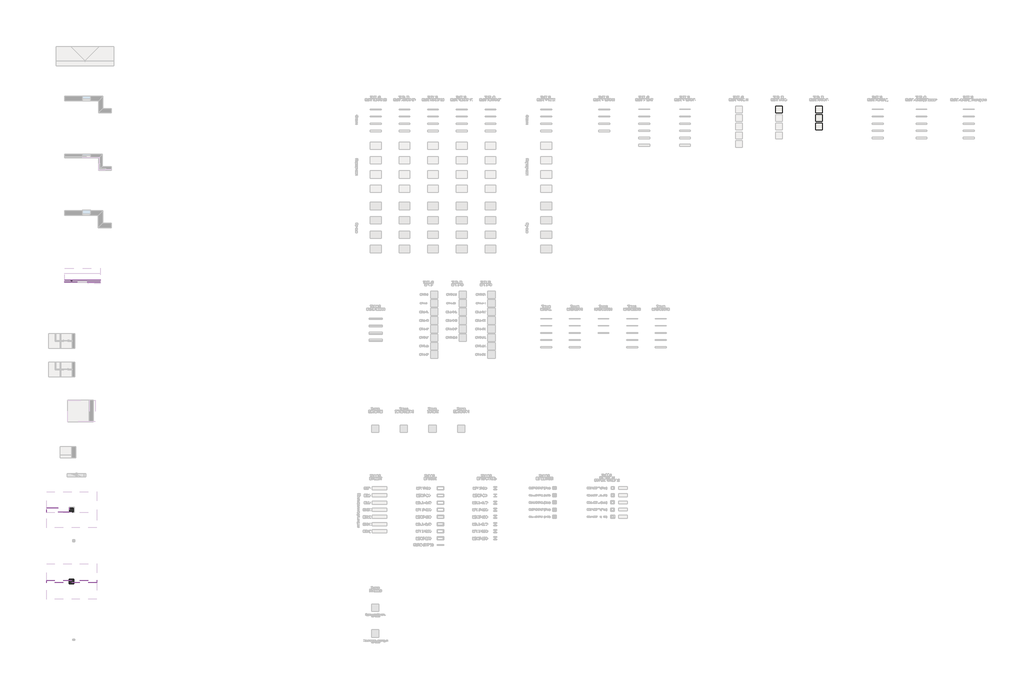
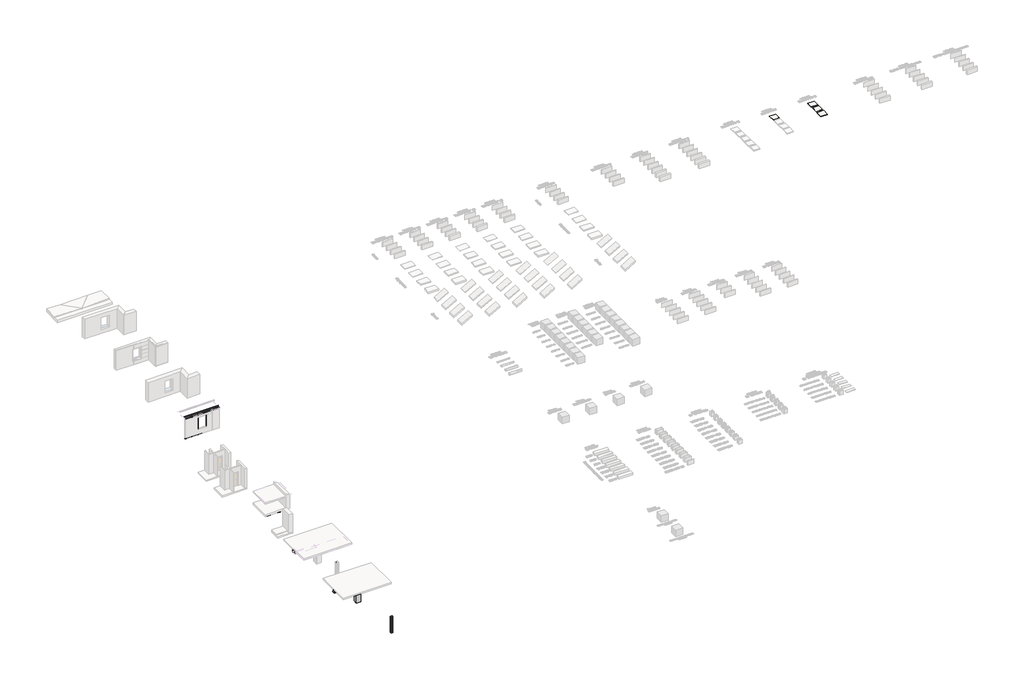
# One storey, part 6 of 35: 8 beams, 6 columns, 4 roofs, 1 slab.
"""IFC4 building model written with IfcOpenShell, lengths in millimetres."""

from ifc_helpers import new_model, si_unit, point, frame, frame_2d, origin, origin_with_axes, place, context, project, spatial, polyline, circle_curve, ellipse_curve, trimmed, segment, composite_curve, outline, extrude, faceted_brep, transform, mapped, element, save
from ifc_brep_helpers import plane_surface, cylinder_surface, revolved_surface, advanced_brep
from components import beam_3bce2fc1, c300_ace66113, c300_2f88b8a5, i_20k2_d5cf9b9c

model = new_model("IFC4")

# Units and contexts
model_context = context("Model", 3, world=origin())
ifc_project = project(units=[si_unit("LENGTHUNIT", "METRE", prefix="MILLI")], contexts=[model_context])

# Site, building, storey
site = spatial("IfcSite", under=ifc_project)
building = spatial("IfcBuilding", under=site)
storey = spatial("IfcBuildingStorey", under=building, Name="Этаж 01", Elevation=0.0)

# Beams
placement = place(None, origin())
element("IfcBeam", 1, ObjectType="C-образный профиль (ГОСТ 8240-89) Балки : [ 10", at=placement, inside=storey, context=model_context, shape_type="AdvancedBrep", body=[
    advanced_brep(
    [(-39580.0301385, -20284.5243348, 46.0), (-39626.0301385, -20284.5243348, 46.0), (-39626.0301385, -20284.5243348, 3004.0), (-39580.0301385, -20284.5243348, 3004.0), (-39626.0301385, -20286.702812, 46.0), (-39626.0301385, -20286.702812, 3004.0), (-39623.3875741, -20289.6814425, 43.3574357), (-39623.3875741, -20289.6814425, 3006.6425643), (-39590.6961219, -20293.6044168, 10.6659835), (-39590.6961219, -20293.6044168, 3039.3340165), (-39584.5301385, -20300.5545546, 4.5), (-39584.5301385, -20300.5545546, 3045.5), (-39584.5301385, -20368.4941149, 4.5), (-39584.5301385, -20368.4941149, 3045.5), (-39590.6961219, -20375.4442528, 10.6659835), (-39590.6961219, -20375.4442528, 3039.3340165), (-39623.3875741, -20379.3672271, 43.3574357), (-39623.3875741, -20379.3672271, 3006.6425643), (-39626.0301385, -20382.3458576, 46.0), (-39626.0301385, -20382.3458576, 3004.0), (-39626.0301385, -20384.5243348, 46.0), (-39626.0301385, -20384.5243348, 3004.0), (-39580.0301385, -20384.5243348, 46.0), (-39580.0301385, -20384.5243348, 3004.0), (-39580.0301385, -20382.3458576, 46.0), (-39580.0301385, -20379.3672271, 43.3574357), (-39580.0301385, -20375.4442528, 10.6659835), (-39580.0301385, -20368.4941149, 4.5), (-39580.0301385, -20300.5545546, 4.5), (-39580.0301385, -20293.6044168, 10.6659835), (-39580.0301385, -20289.6814425, 43.3574357), (-39580.0301385, -20286.702812, 46.0), (-39580.0301385, -20286.702812, 3004.0), (-39580.0301385, -20289.6814425, 3006.6425643), (-39580.0301385, -20293.6044168, 3039.3340165), (-39580.0301385, -20300.5545546, 3045.5), (-39580.0301385, -20368.4941149, 3045.5), (-39580.0301385, -20375.4442528, 3039.3340165), (-39580.0301385, -20379.3672271, 3006.6425643), (-39580.0301385, -20382.3458576, 3004.0)],
    [
        (0, 1),
        (1, 2),
        (2, 3),
        (3, 0),
        (1, 4),
        (4, 5),
        (5, 2),
        (4, 6, ellipse_curve(frame((-39623.0301385, -20286.702812, 43.0), z_axis=(0.7071067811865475, 0.0, 0.7071067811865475), x_axis=(0.7071067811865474, 0.0, -0.7071067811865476)), 4.2426407, 3.0)),
        (6, 7),
        (7, 5, ellipse_curve(frame((-39623.0301385, -20286.702812, 3007.0), z_axis=(0.7071067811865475, 0.0, -0.7071067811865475), x_axis=(-0.7071067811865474, 0.0, -0.7071067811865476)), 4.2426407, 3.0)),
        (6, 8),
        (8, 9),
        (9, 7),
        (8, 10, ellipse_curve(frame((-39591.5301385, -20300.5545546, 11.5), z_axis=(-0.7071067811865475, 0.0, -0.7071067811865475), x_axis=(0.7071067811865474, 0.0, -0.7071067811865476)), 9.8994949, 7.0)),
        (10, 11),
        (11, 9, ellipse_curve(frame((-39591.5301385, -20300.5545546, 3038.5), z_axis=(-0.7071067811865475, 0.0, 0.7071067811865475), x_axis=(-0.7071067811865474, 0.0, -0.7071067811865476)), 9.8994949, 7.0)),
        (10, 12),
        (12, 13),
        (13, 11),
        (12, 14, ellipse_curve(frame((-39591.5301385, -20368.4941149, 11.5), z_axis=(-0.7071067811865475, 0.0, -0.7071067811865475), x_axis=(0.7071067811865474, 0.0, -0.7071067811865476)), 9.8994949, 7.0)),
        (14, 15),
        (15, 13, ellipse_curve(frame((-39591.5301385, -20368.4941149, 3038.5), z_axis=(-0.7071067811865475, 0.0, 0.7071067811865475), x_axis=(-0.7071067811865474, 0.0, -0.7071067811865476)), 9.8994949, 7.0)),
        (14, 16),
        (16, 17),
        (17, 15),
        (16, 18, ellipse_curve(frame((-39623.0301385, -20382.3458576, 43.0), z_axis=(0.7071067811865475, 0.0, 0.7071067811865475), x_axis=(0.7071067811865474, 0.0, -0.7071067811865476)), 4.2426407, 3.0)),
        (18, 19),
        (19, 17, ellipse_curve(frame((-39623.0301385, -20382.3458576, 3007.0), z_axis=(0.7071067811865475, 0.0, -0.7071067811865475), x_axis=(-0.7071067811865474, 0.0, -0.7071067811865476)), 4.2426407, 3.0)),
        (18, 20),
        (20, 21),
        (21, 19),
        (20, 22),
        (22, 23),
        (23, 21),
        (22, 24),
        (24, 25, circle_curve(frame((-39580.0301385, -20382.3458576, 43.0), z_axis=(-1.0, 0.0, 0.0), x_axis=(0.0, 0.0, 1.0)), 3.0)),
        (25, 26),
        (26, 27, circle_curve(frame((-39580.0301385, -20368.4941149, 11.5), z_axis=(1.0, 0.0, 0.0), x_axis=(0.0, 0.0, 1.0)), 7.0)),
        (27, 28),
        (28, 29, circle_curve(frame((-39580.0301385, -20300.5545546, 11.5), z_axis=(1.0, 0.0, 0.0), x_axis=(0.0, 0.0, 1.0)), 7.0)),
        (29, 30),
        (30, 31, circle_curve(frame((-39580.0301385, -20286.702812, 43.0), z_axis=(-1.0, 0.0, 0.0), x_axis=(0.0, 0.0, 1.0)), 3.0)),
        (31, 0),
        (3, 32),
        (32, 33, circle_curve(frame((-39580.0301385, -20286.702812, 3007.0), z_axis=(-1.0, 0.0, 0.0), x_axis=(0.0, 0.0, -1.0)), 3.0)),
        (33, 34),
        (34, 35, circle_curve(frame((-39580.0301385, -20300.5545546, 3038.5), z_axis=(1.0, 0.0, 0.0), x_axis=(0.0, 0.0, -1.0)), 7.0)),
        (35, 36),
        (36, 37, circle_curve(frame((-39580.0301385, -20368.4941149, 3038.5), z_axis=(1.0, 0.0, 0.0), x_axis=(0.0, 0.0, -1.0)), 7.0)),
        (37, 38),
        (38, 39, circle_curve(frame((-39580.0301385, -20382.3458576, 3007.0), z_axis=(-1.0, 0.0, 0.0), x_axis=(0.0, 0.0, -1.0)), 3.0)),
        (39, 23),
        (18, 24),
        (16, 25),
        (14, 26),
        (12, 27),
        (10, 28),
        (8, 29),
        (6, 30),
        (4, 31),
        (5, 32),
        (7, 33),
        (9, 34),
        (11, 35),
        (13, 36),
        (15, 37),
        (17, 38),
        (19, 39),
    ],
    [
        plane_surface(frame((-39603.0301385, -20284.5243348, 3050.0), z_axis=(0.0, 1.0, 0.0), x_axis=(-1.0, 0.0, 0.0))),
        plane_surface(frame((-39626.0301385, -20285.6135734, 3050.0), z_axis=(-1.0, 0.0, 0.0), x_axis=(0.0, -1.0, 0.0))),
        cylinder_surface(frame((-39623.0301385, -20286.702812, 3050.0), z_axis=(0.0, 0.0, -1.0), x_axis=(0.0, -1.0, 0.0)), 3.0),
        plane_surface(frame((-39607.041848, -20291.6429296, 3050.0), z_axis=(-0.11914522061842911, -0.9928768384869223, 0.0), x_axis=(0.9928768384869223, -0.11914522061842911, 0.0))),
        revolved_surface(polyline([(-39584.58000063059, -20301.38857114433, 4.5), (-39584.58000063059, -20301.38857114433, 3045.5)]), (-39591.5301385, -20300.5545546, 3050.0), (0.0, 0.0, -1.0)),
        plane_surface(frame((-39584.5301385, -20334.5243348, 3050.0), z_axis=(-1.0, 0.0, 0.0), x_axis=(0.0, -1.0, 0.0))),
        revolved_surface(polyline([(-39591.5301385, -20375.4941149, 4.5), (-39591.5301385, -20375.4941149, 3045.5)]), (-39591.5301385, -20368.4941149, 3050.0), (0.0, 0.0, -1.0)),
        plane_surface(frame((-39607.041848, -20377.4057399, 3050.0), z_axis=(-0.11914522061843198, 0.9928768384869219, 0.0), x_axis=(-0.9928768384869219, -0.11914522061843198, 0.0))),
        cylinder_surface(frame((-39623.0301385, -20382.3458576, 3050.0), z_axis=(0.0, 0.0, -1.0), x_axis=(-0.9928768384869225, -0.11914522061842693, 0.0)), 3.0),
        plane_surface(frame((-39626.0301385, -20383.4350962, 3050.0), z_axis=(-1.0, 0.0, 0.0), x_axis=(0.0, -1.0, 0.0))),
        plane_surface(frame((-39603.0301385, -20384.5243348, 3050.0), z_axis=(0.0, -1.0, 0.0), x_axis=(1.0, 0.0, 0.0))),
        plane_surface(frame((-39580.0301385, -20334.5243348, 3050.0), z_axis=(1.0, 0.0, 0.0), x_axis=(0.0, 1.0, 0.0))),
        plane_surface(frame((-41475.0301385, -20384.5243348, 46.0), z_axis=(0.0, 0.0, -1.0), x_axis=(1.0, 0.0, 0.0))),
        revolved_surface(polyline([(-39626.03013850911, -20382.3458576, 46.0), (-39580.0301385, -20382.3458576, 46.0)]), (-38975.0301385, -20382.3458576, 43.0), (-1.0, 0.0, 0.0)),
        plane_surface(frame((-41475.0301385, -20379.3672271, 43.3574357), z_axis=(0.0, -0.9928768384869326, -0.11914522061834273), x_axis=(1.0, 0.0, 0.0))),
        cylinder_surface(frame((-38975.0301385, -20368.4941149, 11.5), z_axis=(1.0, 0.0, 0.0), x_axis=(0.0, 0.0, 1.0)), 7.0),
        plane_surface(frame((-41475.0301385, -20368.4941149, 4.5), z_axis=(0.0, 0.0, -1.0), x_axis=(1.0, 0.0, 0.0))),
        cylinder_surface(frame((-38975.0301385, -20300.5545546, 11.5), z_axis=(1.0, 0.0, 0.0), x_axis=(0.0, 0.0, 1.0)), 7.0),
        plane_surface(frame((-41475.0301385, -20293.6044168, 10.6659835), z_axis=(0.0, 0.9928768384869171, -0.1191452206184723), x_axis=(1.0, 0.0, 0.0))),
        revolved_surface(polyline([(-39626.03013850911, -20286.702812, 46.0), (-39580.0301385, -20286.702812, 46.0)]), (-38975.0301385, -20286.702812, 43.0), (-1.0, 0.0, 0.0)),
        plane_surface(frame((-41475.0301385, -20286.702812, 46.0), z_axis=(0.0, 0.0, -1.0), x_axis=(1.0, 0.0, 0.0))),
        plane_surface(frame((-41475.0301385, -20284.5243348, 3004.0), z_axis=(0.0, 0.0, 1.0), x_axis=(1.0, 0.0, 0.0))),
        revolved_surface(polyline([(-39626.03013850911, -20286.702812, 3004.0), (-39580.0301385, -20286.702812, 3004.0)]), (-38975.0301385, -20286.702812, 3007.0), (-1.0, 0.0, 0.0)),
        plane_surface(frame((-41475.0301385, -20289.6814425, 3006.6425643), z_axis=(0.0, 0.9928768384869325, 0.11914522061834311), x_axis=(1.0, 0.0, 0.0))),
        cylinder_surface(frame((-38975.0301385, -20300.5545546, 3038.5), z_axis=(1.0, 0.0, 0.0), x_axis=(0.0, 0.0, -1.0)), 7.0),
        plane_surface(frame((-41475.0301385, -20300.5545546, 3045.5), z_axis=(0.0, 0.0, 1.0), x_axis=(1.0, 0.0, 0.0))),
        cylinder_surface(frame((-38975.0301385, -20368.4941149, 3038.5), z_axis=(1.0, 0.0, 0.0), x_axis=(0.0, 0.0, -1.0)), 7.0),
        plane_surface(frame((-41475.0301385, -20375.4442528, 3039.3340165), z_axis=(0.0, -0.992876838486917, 0.1191452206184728), x_axis=(1.0, 0.0, 0.0))),
        revolved_surface(polyline([(-39626.03013850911, -20382.3458576, 3004.0), (-39580.0301385, -20382.3458576, 3004.0)]), (-38975.0301385, -20382.3458576, 3007.0), (-1.0, 0.0, 0.0)),
        plane_surface(frame((-41475.0301385, -20382.3458576, 3004.0), z_axis=(0.0, 0.0, 1.0), x_axis=(1.0, 0.0, 0.0))),
    ],
    [
        (0, [[1, 2, 3, 4]]),
        (1, [[5, 6, 7, -2]]),
        (2, [[8, 9, 10, -6]]),
        (3, [[11, 12, 13, -9]]),
        (4, [[14, 15, 16, -12]]),
        (5, [[17, 18, 19, -15]]),
        (6, [[20, 21, 22, -18]]),
        (7, [[23, 24, 25, -21]]),
        (8, [[26, 27, 28, -24]]),
        (9, [[29, 30, 31, -27]]),
        (10, [[32, 33, 34, -30]]),
        (11, [[35, 36, 37, 38, 39, 40, 41, 42, 43, -4, 44, 45, 46, 47, 48, 49, 50, 51, 52, -33]]),
        (12, [[53, -35, -32, -29]]),
        (13, [[-53, -26, 54, -36]]),
        (14, [[-54, -23, 55, -37]]),
        (15, [[-55, -20, 56, -38]]),
        (16, [[-56, -17, 57, -39]]),
        (17, [[-57, -14, 58, -40]]),
        (18, [[-58, -11, 59, -41]]),
        (19, [[-59, -8, 60, -42]]),
        (20, [[-60, -5, -1, -43]]),
        (21, [[61, -44, -3, -7]]),
        (22, [[-61, -10, 62, -45]]),
        (23, [[-62, -13, 63, -46]]),
        (24, [[-63, -16, 64, -47]]),
        (25, [[-64, -19, 65, -48]]),
        (26, [[-65, -22, 66, -49]]),
        (27, [[-66, -25, 67, -50]]),
        (28, [[-67, -28, 68, -51]]),
        (29, [[-68, -31, -34, -52]]),
    ],
),
])
element("IfcBeam", 2, ObjectType="C-образный профиль (ГОСТ 8240-89) Балки : [ 10", at=placement, inside=storey, context=model_context, shape_type="AdvancedBrep", body=[
    advanced_brep(
    [(-38370.0301385, -20384.5243348, 46.0), (-38324.0301385, -20384.5243348, 46.0), (-38324.0301385, -20384.5243348, 3004.0), (-38370.0301385, -20384.5243348, 3004.0), (-38324.0301385, -20382.3458576, 46.0), (-38324.0301385, -20382.3458576, 3004.0), (-38326.6727028, -20379.3672271, 43.3574357), (-38326.6727028, -20379.3672271, 3006.6425643), (-38359.364155, -20375.4442528, 10.6659835), (-38359.364155, -20375.4442528, 3039.3340165), (-38365.5301385, -20368.4941149, 4.5), (-38365.5301385, -20368.4941149, 3045.5), (-38365.5301385, -20300.5545546, 4.5), (-38365.5301385, -20300.5545546, 3045.5), (-38359.364155, -20293.6044168, 10.6659835), (-38359.364155, -20293.6044168, 3039.3340165), (-38326.6727028, -20289.6814425, 43.3574357), (-38326.6727028, -20289.6814425, 3006.6425643), (-38324.0301385, -20286.702812, 46.0), (-38324.0301385, -20286.702812, 3004.0), (-38324.0301385, -20284.5243348, 46.0), (-38324.0301385, -20284.5243348, 3004.0), (-38370.0301385, -20284.5243348, 46.0), (-38370.0301385, -20284.5243348, 3004.0), (-38370.0301385, -20382.3458576, 46.0), (-38370.0301385, -20382.3458576, 3004.0), (-38370.0301385, -20379.3672271, 3006.6425643), (-38370.0301385, -20375.4442528, 3039.3340165), (-38370.0301385, -20368.4941149, 3045.5), (-38370.0301385, -20300.5545546, 3045.5), (-38370.0301385, -20293.6044168, 3039.3340165), (-38370.0301385, -20289.6814425, 3006.6425643), (-38370.0301385, -20286.702812, 3004.0), (-38370.0301385, -20286.702812, 46.0), (-38370.0301385, -20289.6814425, 43.3574357), (-38370.0301385, -20293.6044168, 10.6659835), (-38370.0301385, -20300.5545546, 4.5), (-38370.0301385, -20368.4941149, 4.5), (-38370.0301385, -20375.4442528, 10.6659835), (-38370.0301385, -20379.3672271, 43.3574357)],
    [
        (0, 1),
        (1, 2),
        (2, 3),
        (3, 0),
        (1, 4),
        (4, 5),
        (5, 2),
        (4, 6, ellipse_curve(frame((-38327.0301385, -20382.3458576, 43.0), z_axis=(-0.7071067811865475, 0.0, 0.7071067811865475), x_axis=(-0.7071067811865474, 0.0, -0.7071067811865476)), 4.2426407, 3.0)),
        (6, 7),
        (7, 5, ellipse_curve(frame((-38327.0301385, -20382.3458576, 3007.0), z_axis=(-0.7071067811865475, 0.0, -0.7071067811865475), x_axis=(0.7071067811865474, 0.0, -0.7071067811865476)), 4.2426407, 3.0)),
        (6, 8),
        (8, 9),
        (9, 7),
        (8, 10, ellipse_curve(frame((-38358.5301385, -20368.4941149, 11.5), z_axis=(0.7071067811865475, 0.0, -0.7071067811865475), x_axis=(-0.7071067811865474, 0.0, -0.7071067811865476)), 9.8994949, 7.0)),
        (10, 11),
        (11, 9, ellipse_curve(frame((-38358.5301385, -20368.4941149, 3038.5), z_axis=(0.7071067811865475, 0.0, 0.7071067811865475), x_axis=(0.7071067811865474, 0.0, -0.7071067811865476)), 9.8994949, 7.0)),
        (10, 12),
        (12, 13),
        (13, 11),
        (12, 14, ellipse_curve(frame((-38358.5301385, -20300.5545546, 11.5), z_axis=(0.7071067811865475, 0.0, -0.7071067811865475), x_axis=(-0.7071067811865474, 0.0, -0.7071067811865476)), 9.8994949, 7.0)),
        (14, 15),
        (15, 13, ellipse_curve(frame((-38358.5301385, -20300.5545546, 3038.5), z_axis=(0.7071067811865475, 0.0, 0.7071067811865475), x_axis=(0.7071067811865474, 0.0, -0.7071067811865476)), 9.8994949, 7.0)),
        (14, 16),
        (16, 17),
        (17, 15),
        (16, 18, ellipse_curve(frame((-38327.0301385, -20286.702812, 43.0), z_axis=(-0.7071067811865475, 0.0, 0.7071067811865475), x_axis=(-0.7071067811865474, 0.0, -0.7071067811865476)), 4.2426407, 3.0)),
        (18, 19),
        (19, 17, ellipse_curve(frame((-38327.0301385, -20286.702812, 3007.0), z_axis=(-0.7071067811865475, 0.0, -0.7071067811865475), x_axis=(0.7071067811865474, 0.0, -0.7071067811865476)), 4.2426407, 3.0)),
        (18, 20),
        (20, 21),
        (21, 19),
        (20, 22),
        (22, 23),
        (23, 21),
        (24, 0),
        (3, 25),
        (25, 26, circle_curve(frame((-38370.0301385, -20382.3458576, 3007.0), z_axis=(1.0, 0.0, 0.0), x_axis=(0.0, 0.0, -1.0)), 3.0)),
        (26, 27),
        (27, 28, circle_curve(frame((-38370.0301385, -20368.4941149, 3038.5), z_axis=(-1.0, 0.0, 0.0), x_axis=(0.0, 0.0, -1.0)), 7.0)),
        (28, 29),
        (29, 30, circle_curve(frame((-38370.0301385, -20300.5545546, 3038.5), z_axis=(-1.0, 0.0, 0.0), x_axis=(0.0, 0.0, -1.0)), 7.0)),
        (30, 31),
        (31, 32, circle_curve(frame((-38370.0301385, -20286.702812, 3007.0), z_axis=(1.0, 0.0, 0.0), x_axis=(0.0, 0.0, -1.0)), 3.0)),
        (32, 23),
        (22, 33),
        (33, 34, circle_curve(frame((-38370.0301385, -20286.702812, 43.0), z_axis=(1.0, 0.0, 0.0), x_axis=(0.0, 0.0, 1.0)), 3.0)),
        (34, 35),
        (35, 36, circle_curve(frame((-38370.0301385, -20300.5545546, 11.5), z_axis=(-1.0, 0.0, 0.0), x_axis=(0.0, 0.0, 1.0)), 7.0)),
        (36, 37),
        (37, 38, circle_curve(frame((-38370.0301385, -20368.4941149, 11.5), z_axis=(-1.0, 0.0, 0.0), x_axis=(0.0, 0.0, 1.0)), 7.0)),
        (38, 39),
        (39, 24, circle_curve(frame((-38370.0301385, -20382.3458576, 43.0), z_axis=(1.0, 0.0, 0.0), x_axis=(0.0, 0.0, 1.0)), 3.0)),
        (24, 4),
        (39, 6),
        (38, 8),
        (37, 10),
        (36, 12),
        (35, 14),
        (34, 16),
        (33, 18),
        (32, 19),
        (31, 17),
        (30, 15),
        (29, 13),
        (28, 11),
        (27, 9),
        (26, 7),
        (25, 5),
    ],
    [
        plane_surface(frame((-38347.0301385, -20384.5243348, 3050.0), z_axis=(0.0, -1.0, 0.0), x_axis=(1.0, 0.0, 0.0))),
        plane_surface(frame((-38324.0301385, -20383.4350962, 3050.0), z_axis=(1.0, 0.0, 0.0), x_axis=(0.0, 1.0, 0.0))),
        cylinder_surface(frame((-38327.0301385, -20382.3458576, 3050.0), z_axis=(0.0, 0.0, -1.0), x_axis=(0.0, 1.0, 0.0)), 3.0),
        plane_surface(frame((-38343.0184289, -20377.4057399, 3050.0), z_axis=(0.11914522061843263, 0.9928768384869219, 0.0), x_axis=(-0.9928768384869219, 0.11914522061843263, 0.0))),
        revolved_surface(polyline([(-38365.48027636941, -20367.66009835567, 4.5), (-38365.48027636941, -20367.66009835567, 3045.5)]), (-38358.5301385, -20368.4941149, 3050.0), (0.0, 0.0, -1.0)),
        plane_surface(frame((-38365.5301385, -20334.5243348, 3050.0), z_axis=(1.0, 0.0, 0.0), x_axis=(0.0, 1.0, 0.0))),
        revolved_surface(polyline([(-38358.5301385, -20293.5545546, 4.5), (-38358.5301385, -20293.5545546, 3045.5)]), (-38358.5301385, -20300.5545546, 3050.0), (0.0, 0.0, -1.0)),
        plane_surface(frame((-38343.0184289, -20291.6429296, 3050.0), z_axis=(0.11914522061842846, -0.9928768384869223, 0.0), x_axis=(0.9928768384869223, 0.11914522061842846, 0.0))),
        cylinder_surface(frame((-38327.0301385, -20286.702812, 3050.0), z_axis=(0.0, 0.0, -1.0), x_axis=(0.992876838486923, 0.1191452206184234, 0.0)), 3.0),
        plane_surface(frame((-38324.0301385, -20285.6135734, 3050.0), z_axis=(1.0, 0.0, 0.0), x_axis=(0.0, 1.0, 0.0))),
        plane_surface(frame((-38347.0301385, -20284.5243348, 3050.0), z_axis=(0.0, 1.0, 0.0), x_axis=(-1.0, 0.0, 0.0))),
        plane_surface(frame((-38370.0301385, -20334.5243348, 3050.0), z_axis=(-1.0, 0.0, 0.0), x_axis=(0.0, -1.0, 0.0))),
        plane_surface(frame((-41475.0301385, -20384.5243348, 46.0), z_axis=(0.0, 0.0, -1.0), x_axis=(1.0, 0.0, 0.0))),
        revolved_surface(polyline([(-38370.0301385, -20382.3458576, 46.0), (-38324.03013849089, -20382.3458576, 46.0)]), (-38975.0301385, -20382.3458576, 43.0), (-1.0, 0.0, 0.0)),
        plane_surface(frame((-41475.0301385, -20379.3672271, 43.3574357), z_axis=(0.0, -0.9928768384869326, -0.11914522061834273), x_axis=(1.0, 0.0, 0.0))),
        cylinder_surface(frame((-38975.0301385, -20368.4941149, 11.5), z_axis=(1.0, 0.0, 0.0), x_axis=(0.0, 0.0, 1.0)), 7.0),
        plane_surface(frame((-41475.0301385, -20368.4941149, 4.5), z_axis=(0.0, 0.0, -1.0), x_axis=(1.0, 0.0, 0.0))),
        cylinder_surface(frame((-38975.0301385, -20300.5545546, 11.5), z_axis=(1.0, 0.0, 0.0), x_axis=(0.0, 0.0, 1.0)), 7.0),
        plane_surface(frame((-41475.0301385, -20293.6044168, 10.6659835), z_axis=(0.0, 0.9928768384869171, -0.1191452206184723), x_axis=(1.0, 0.0, 0.0))),
        revolved_surface(polyline([(-38370.0301385, -20286.702812, 46.0), (-38324.03013849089, -20286.702812, 46.0)]), (-38975.0301385, -20286.702812, 43.0), (-1.0, 0.0, 0.0)),
        plane_surface(frame((-41475.0301385, -20286.702812, 46.0), z_axis=(0.0, 0.0, -1.0), x_axis=(1.0, 0.0, 0.0))),
        plane_surface(frame((-41475.0301385, -20284.5243348, 3004.0), z_axis=(0.0, 0.0, 1.0), x_axis=(1.0, 0.0, 0.0))),
        revolved_surface(polyline([(-38370.0301385, -20286.702812, 3004.0), (-38324.03013849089, -20286.702812, 3004.0)]), (-38975.0301385, -20286.702812, 3007.0), (-1.0, 0.0, 0.0)),
        plane_surface(frame((-41475.0301385, -20289.6814425, 3006.6425643), z_axis=(0.0, 0.9928768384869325, 0.11914522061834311), x_axis=(1.0, 0.0, 0.0))),
        cylinder_surface(frame((-38975.0301385, -20300.5545546, 3038.5), z_axis=(1.0, 0.0, 0.0), x_axis=(0.0, 0.0, -1.0)), 7.0),
        plane_surface(frame((-41475.0301385, -20300.5545546, 3045.5), z_axis=(0.0, 0.0, 1.0), x_axis=(1.0, 0.0, 0.0))),
        cylinder_surface(frame((-38975.0301385, -20368.4941149, 3038.5), z_axis=(1.0, 0.0, 0.0), x_axis=(0.0, 0.0, -1.0)), 7.0),
        plane_surface(frame((-41475.0301385, -20375.4442528, 3039.3340165), z_axis=(0.0, -0.992876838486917, 0.1191452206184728), x_axis=(1.0, 0.0, 0.0))),
        revolved_surface(polyline([(-38370.0301385, -20382.3458576, 3004.0), (-38324.03013849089, -20382.3458576, 3004.0)]), (-38975.0301385, -20382.3458576, 3007.0), (-1.0, 0.0, 0.0)),
        plane_surface(frame((-41475.0301385, -20382.3458576, 3004.0), z_axis=(0.0, 0.0, 1.0), x_axis=(1.0, 0.0, 0.0))),
    ],
    [
        (0, [[1, 2, 3, 4]]),
        (1, [[5, 6, 7, -2]]),
        (2, [[8, 9, 10, -6]]),
        (3, [[11, 12, 13, -9]]),
        (4, [[14, 15, 16, -12]]),
        (5, [[17, 18, 19, -15]]),
        (6, [[20, 21, 22, -18]]),
        (7, [[23, 24, 25, -21]]),
        (8, [[26, 27, 28, -24]]),
        (9, [[29, 30, 31, -27]]),
        (10, [[32, 33, 34, -30]]),
        (11, [[35, -4, 36, 37, 38, 39, 40, 41, 42, 43, 44, -33, 45, 46, 47, 48, 49, 50, 51, 52]]),
        (12, [[53, -5, -1, -35]]),
        (13, [[-53, -52, 54, -8]]),
        (14, [[-54, -51, 55, -11]]),
        (15, [[-55, -50, 56, -14]]),
        (16, [[-56, -49, 57, -17]]),
        (17, [[-57, -48, 58, -20]]),
        (18, [[-58, -47, 59, -23]]),
        (19, [[-59, -46, 60, -26]]),
        (20, [[-60, -45, -32, -29]]),
        (21, [[61, -31, -34, -44]]),
        (22, [[-61, -43, 62, -28]]),
        (23, [[-62, -42, 63, -25]]),
        (24, [[-63, -41, 64, -22]]),
        (25, [[-64, -40, 65, -19]]),
        (26, [[-65, -39, 66, -16]]),
        (27, [[-66, -38, 67, -13]]),
        (28, [[-67, -37, 68, -10]]),
        (29, [[-68, -36, -3, -7]]),
    ],
),
])
element("IfcBeam", 3, ObjectType="C-образный профиль (ГОСТ 8240-89) Балки : [ 10", at=placement, inside=storey, context=model_context, shape_type="AdvancedBrep", body=[
    advanced_brep(
    [(-40500.5104743, -20384.5243348, 46.0), (-40454.5104743, -20384.5243348, 46.0), (-40454.5104743, -20384.5243348, 3004.0), (-40500.5104743, -20384.5243348, 3004.0), (-40454.5104743, -20382.3458576, 46.0), (-40454.5104743, -20382.3458576, 3004.0), (-40457.1530387, -20379.3672271, 43.3574357), (-40457.1530387, -20379.3672271, 3006.6425643), (-40489.8444909, -20375.4442528, 10.6659835), (-40489.8444909, -20375.4442528, 3039.3340165), (-40496.0104743, -20368.4941149, 4.5), (-40496.0104743, -20368.4941149, 3045.5), (-40496.0104743, -20300.5545546, 4.5), (-40496.0104743, -20300.5545546, 3045.5), (-40489.8444909, -20293.6044168, 10.6659835), (-40489.8444909, -20293.6044168, 3039.3340165), (-40457.1530387, -20289.6814425, 43.3574357), (-40457.1530387, -20289.6814425, 3006.6425643), (-40454.5104743, -20286.702812, 46.0), (-40454.5104743, -20286.702812, 3004.0), (-40454.5104743, -20284.5243348, 46.0), (-40454.5104743, -20284.5243348, 3004.0), (-40500.5104743, -20284.5243348, 46.0), (-40500.5104743, -20284.5243348, 3004.0), (-40500.5104743, -20382.3458576, 46.0), (-40500.5104743, -20382.3458576, 3004.0), (-40500.5104743, -20379.3672271, 3006.6425643), (-40500.5104743, -20375.4442528, 3039.3340165), (-40500.5104743, -20368.4941149, 3045.5), (-40500.5104743, -20300.5545546, 3045.5), (-40500.5104743, -20293.6044168, 3039.3340165), (-40500.5104743, -20289.6814425, 3006.6425643), (-40500.5104743, -20286.702812, 3004.0), (-40500.5104743, -20286.702812, 46.0), (-40500.5104743, -20289.6814425, 43.3574357), (-40500.5104743, -20293.6044168, 10.6659835), (-40500.5104743, -20300.5545546, 4.5), (-40500.5104743, -20368.4941149, 4.5), (-40500.5104743, -20375.4442528, 10.6659835), (-40500.5104743, -20379.3672271, 43.3574357)],
    [
        (0, 1),
        (1, 2),
        (2, 3),
        (3, 0),
        (1, 4),
        (4, 5),
        (5, 2),
        (4, 6, ellipse_curve(frame((-40457.5104743, -20382.3458576, 43.0), z_axis=(-0.7071067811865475, 0.0, 0.7071067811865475), x_axis=(-0.7071067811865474, 0.0, -0.7071067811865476)), 4.2426407, 3.0)),
        (6, 7),
        (7, 5, ellipse_curve(frame((-40457.5104743, -20382.3458576, 3007.0), z_axis=(-0.7071067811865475, 0.0, -0.7071067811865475), x_axis=(0.7071067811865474, 0.0, -0.7071067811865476)), 4.2426407, 3.0)),
        (6, 8),
        (8, 9),
        (9, 7),
        (8, 10, ellipse_curve(frame((-40489.0104743, -20368.4941149, 11.5), z_axis=(0.7071067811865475, 0.0, -0.7071067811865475), x_axis=(-0.7071067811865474, 0.0, -0.7071067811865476)), 9.8994949, 7.0)),
        (10, 11),
        (11, 9, ellipse_curve(frame((-40489.0104743, -20368.4941149, 3038.5), z_axis=(0.7071067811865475, 0.0, 0.7071067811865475), x_axis=(0.7071067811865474, 0.0, -0.7071067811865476)), 9.8994949, 7.0)),
        (10, 12),
        (12, 13),
        (13, 11),
        (12, 14, ellipse_curve(frame((-40489.0104743, -20300.5545546, 11.5), z_axis=(0.7071067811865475, 0.0, -0.7071067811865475), x_axis=(-0.7071067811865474, 0.0, -0.7071067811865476)), 9.8994949, 7.0)),
        (14, 15),
        (15, 13, ellipse_curve(frame((-40489.0104743, -20300.5545546, 3038.5), z_axis=(0.7071067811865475, 0.0, 0.7071067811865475), x_axis=(0.7071067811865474, 0.0, -0.7071067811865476)), 9.8994949, 7.0)),
        (14, 16),
        (16, 17),
        (17, 15),
        (16, 18, ellipse_curve(frame((-40457.5104743, -20286.702812, 43.0), z_axis=(-0.7071067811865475, 0.0, 0.7071067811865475), x_axis=(-0.7071067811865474, 0.0, -0.7071067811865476)), 4.2426407, 3.0)),
        (18, 19),
        (19, 17, ellipse_curve(frame((-40457.5104743, -20286.702812, 3007.0), z_axis=(-0.7071067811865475, 0.0, -0.7071067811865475), x_axis=(0.7071067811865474, 0.0, -0.7071067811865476)), 4.2426407, 3.0)),
        (18, 20),
        (20, 21),
        (21, 19),
        (20, 22),
        (22, 23),
        (23, 21),
        (24, 0),
        (3, 25),
        (25, 26, circle_curve(frame((-40500.5104743, -20382.3458576, 3007.0), z_axis=(1.0, 0.0, 0.0), x_axis=(0.0, 0.0, -1.0)), 3.0)),
        (26, 27),
        (27, 28, circle_curve(frame((-40500.5104743, -20368.4941149, 3038.5), z_axis=(-1.0, 0.0, 0.0), x_axis=(0.0, 0.0, -1.0)), 7.0)),
        (28, 29),
        (29, 30, circle_curve(frame((-40500.5104743, -20300.5545546, 3038.5), z_axis=(-1.0, 0.0, 0.0), x_axis=(0.0, 0.0, -1.0)), 7.0)),
        (30, 31),
        (31, 32, circle_curve(frame((-40500.5104743, -20286.702812, 3007.0), z_axis=(1.0, 0.0, 0.0), x_axis=(0.0, 0.0, -1.0)), 3.0)),
        (32, 23),
        (22, 33),
        (33, 34, circle_curve(frame((-40500.5104743, -20286.702812, 43.0), z_axis=(1.0, 0.0, 0.0), x_axis=(0.0, 0.0, 1.0)), 3.0)),
        (34, 35),
        (35, 36, circle_curve(frame((-40500.5104743, -20300.5545546, 11.5), z_axis=(-1.0, 0.0, 0.0), x_axis=(0.0, 0.0, 1.0)), 7.0)),
        (36, 37),
        (37, 38, circle_curve(frame((-40500.5104743, -20368.4941149, 11.5), z_axis=(-1.0, 0.0, 0.0), x_axis=(0.0, 0.0, 1.0)), 7.0)),
        (38, 39),
        (39, 24, circle_curve(frame((-40500.5104743, -20382.3458576, 43.0), z_axis=(1.0, 0.0, 0.0), x_axis=(0.0, 0.0, 1.0)), 3.0)),
        (24, 4),
        (39, 6),
        (38, 8),
        (37, 10),
        (36, 12),
        (35, 14),
        (34, 16),
        (33, 18),
        (32, 19),
        (31, 17),
        (30, 15),
        (29, 13),
        (28, 11),
        (27, 9),
        (26, 7),
        (25, 5),
    ],
    [
        plane_surface(frame((-40477.5104743, -20384.5243348, 3050.0), z_axis=(0.0, -1.0, 0.0), x_axis=(1.0, 0.0, 0.0))),
        plane_surface(frame((-40454.5104743, -20383.4350962, 3050.0), z_axis=(1.0, 0.0, 0.0), x_axis=(0.0, 1.0, 0.0))),
        cylinder_surface(frame((-40457.5104743, -20382.3458576, 3050.0), z_axis=(0.0, 0.0, -1.0), x_axis=(0.0, 1.0, 0.0)), 3.0),
        plane_surface(frame((-40473.4987648, -20377.4057399, 3050.0), z_axis=(0.11914522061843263, 0.9928768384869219, 0.0), x_axis=(-0.9928768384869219, 0.11914522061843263, 0.0))),
        revolved_surface(polyline([(-40495.96061216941, -20367.66009835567, 4.5), (-40495.96061216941, -20367.66009835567, 3045.5)]), (-40489.0104743, -20368.4941149, 3050.0), (0.0, 0.0, -1.0)),
        plane_surface(frame((-40496.0104743, -20334.5243348, 3050.0), z_axis=(1.0, 0.0, 0.0), x_axis=(0.0, 1.0, 0.0))),
        revolved_surface(polyline([(-40489.0104743, -20293.5545546, 4.5), (-40489.0104743, -20293.5545546, 3045.5)]), (-40489.0104743, -20300.5545546, 3050.0), (0.0, 0.0, -1.0)),
        plane_surface(frame((-40473.4987648, -20291.6429296, 3050.0), z_axis=(0.11914522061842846, -0.9928768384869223, 0.0), x_axis=(0.9928768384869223, 0.11914522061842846, 0.0))),
        cylinder_surface(frame((-40457.5104743, -20286.702812, 3050.0), z_axis=(0.0, 0.0, -1.0), x_axis=(0.992876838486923, 0.1191452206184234, 0.0)), 3.0),
        plane_surface(frame((-40454.5104743, -20285.6135734, 3050.0), z_axis=(1.0, 0.0, 0.0), x_axis=(0.0, 1.0, 0.0))),
        plane_surface(frame((-40477.5104743, -20284.5243348, 3050.0), z_axis=(0.0, 1.0, 0.0), x_axis=(-1.0, 0.0, 0.0))),
        plane_surface(frame((-40500.5104743, -20334.5243348, 3050.0), z_axis=(-1.0, 0.0, 0.0), x_axis=(0.0, -1.0, 0.0))),
        plane_surface(frame((-41475.0301385, -20384.5243348, 46.0), z_axis=(0.0, 0.0, -1.0), x_axis=(1.0, 0.0, 0.0))),
        revolved_surface(polyline([(-40500.5104743, -20382.3458576, 46.0), (-40454.51047429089, -20382.3458576, 46.0)]), (-38975.0301385, -20382.3458576, 43.0), (-1.0, 0.0, 0.0)),
        plane_surface(frame((-41475.0301385, -20379.3672271, 43.3574357), z_axis=(0.0, -0.9928768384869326, -0.11914522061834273), x_axis=(1.0, 0.0, 0.0))),
        cylinder_surface(frame((-38975.0301385, -20368.4941149, 11.5), z_axis=(1.0, 0.0, 0.0), x_axis=(0.0, 0.0, 1.0)), 7.0),
        plane_surface(frame((-41475.0301385, -20368.4941149, 4.5), z_axis=(0.0, 0.0, -1.0), x_axis=(1.0, 0.0, 0.0))),
        cylinder_surface(frame((-38975.0301385, -20300.5545546, 11.5), z_axis=(1.0, 0.0, 0.0), x_axis=(0.0, 0.0, 1.0)), 7.0),
        plane_surface(frame((-41475.0301385, -20293.6044168, 10.6659835), z_axis=(0.0, 0.9928768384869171, -0.1191452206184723), x_axis=(1.0, 0.0, 0.0))),
        revolved_surface(polyline([(-40500.5104743, -20286.702812, 46.0), (-40454.51047429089, -20286.702812, 46.0)]), (-38975.0301385, -20286.702812, 43.0), (-1.0, 0.0, 0.0)),
        plane_surface(frame((-41475.0301385, -20286.702812, 46.0), z_axis=(0.0, 0.0, -1.0), x_axis=(1.0, 0.0, 0.0))),
        plane_surface(frame((-41475.0301385, -20284.5243348, 3004.0), z_axis=(0.0, 0.0, 1.0), x_axis=(1.0, 0.0, 0.0))),
        revolved_surface(polyline([(-40500.5104743, -20286.702812, 3004.0), (-40454.51047429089, -20286.702812, 3004.0)]), (-38975.0301385, -20286.702812, 3007.0), (-1.0, 0.0, 0.0)),
        plane_surface(frame((-41475.0301385, -20289.6814425, 3006.6425643), z_axis=(0.0, 0.9928768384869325, 0.11914522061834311), x_axis=(1.0, 0.0, 0.0))),
        cylinder_surface(frame((-38975.0301385, -20300.5545546, 3038.5), z_axis=(1.0, 0.0, 0.0), x_axis=(0.0, 0.0, -1.0)), 7.0),
        plane_surface(frame((-41475.0301385, -20300.5545546, 3045.5), z_axis=(0.0, 0.0, 1.0), x_axis=(1.0, 0.0, 0.0))),
        cylinder_surface(frame((-38975.0301385, -20368.4941149, 3038.5), z_axis=(1.0, 0.0, 0.0), x_axis=(0.0, 0.0, -1.0)), 7.0),
        plane_surface(frame((-41475.0301385, -20375.4442528, 3039.3340165), z_axis=(0.0, -0.992876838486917, 0.1191452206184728), x_axis=(1.0, 0.0, 0.0))),
        revolved_surface(polyline([(-40500.5104743, -20382.3458576, 3004.0), (-40454.51047429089, -20382.3458576, 3004.0)]), (-38975.0301385, -20382.3458576, 3007.0), (-1.0, 0.0, 0.0)),
        plane_surface(frame((-41475.0301385, -20382.3458576, 3004.0), z_axis=(0.0, 0.0, 1.0), x_axis=(1.0, 0.0, 0.0))),
    ],
    [
        (0, [[1, 2, 3, 4]]),
        (1, [[5, 6, 7, -2]]),
        (2, [[8, 9, 10, -6]]),
        (3, [[11, 12, 13, -9]]),
        (4, [[14, 15, 16, -12]]),
        (5, [[17, 18, 19, -15]]),
        (6, [[20, 21, 22, -18]]),
        (7, [[23, 24, 25, -21]]),
        (8, [[26, 27, 28, -24]]),
        (9, [[29, 30, 31, -27]]),
        (10, [[32, 33, 34, -30]]),
        (11, [[35, -4, 36, 37, 38, 39, 40, 41, 42, 43, 44, -33, 45, 46, 47, 48, 49, 50, 51, 52]]),
        (12, [[53, -5, -1, -35]]),
        (13, [[-53, -52, 54, -8]]),
        (14, [[-54, -51, 55, -11]]),
        (15, [[-55, -50, 56, -14]]),
        (16, [[-56, -49, 57, -17]]),
        (17, [[-57, -48, 58, -20]]),
        (18, [[-58, -47, 59, -23]]),
        (19, [[-59, -46, 60, -26]]),
        (20, [[-60, -45, -32, -29]]),
        (21, [[61, -31, -34, -44]]),
        (22, [[-61, -43, 62, -28]]),
        (23, [[-62, -42, 63, -25]]),
        (24, [[-63, -41, 64, -22]]),
        (25, [[-64, -40, 65, -19]]),
        (26, [[-65, -39, 66, -16]]),
        (27, [[-66, -38, 67, -13]]),
        (28, [[-67, -37, 68, -10]]),
        (29, [[-68, -36, -3, -7]]),
    ],
),
])
element("IfcBeam", 4, ObjectType="Бетон-Балка прямоугольного сечения : 600 x 400 мм", at=placement, inside=storey, context=model_context, shape_type="SweptSolid", body=[
    extrude(outline(polyline([(-37000.5104743, -51870.4666904), (-37000.5104743, -52470.4666904), (-40200.5104743, -52470.4666904), (-40200.5104743, -51870.4666904), (-37000.5104743, -51870.4666904)])), frame((0.0, 0.0, 2600.0), z_axis=(0.0, 0.0, 1.0), x_axis=(1.0, 0.0, 0.0)), (0.0, 0.0, 1.0), 400.0),
    extrude(outline(polyline([(-44000.5104743, -52470.4666904), (-44000.5104743, -51870.4666904), (-40800.5104743, -51870.4666904), (-40800.5104743, -52470.4666904), (-44000.5104743, -52470.4666904)])), frame((0.0, 0.0, 2600.0), z_axis=(0.0, 0.0, 1.0), x_axis=(1.0, 0.0, 0.0)), (0.0, 0.0, 1.0), 400.0),
])
beam_shape = beam_3bce2fc1(model_context)
element("IfcBeam", 5, ObjectType="C-образный профиль (ГОСТ 8240-89) Балки : [ 10", at=placement, inside=storey, context=model_context, shape_type="MappedRepresentation", body=[
    mapped(beam_shape, transform((-38975.0301385, -20334.5243348, 14.4), x_axis=(1.0, 0.0, 0.0), y_axis=(0.0, 0.0, -1.0), z_axis=(0.0, 1.0, 0.0))),
])
element("IfcBeam", 6, ObjectType="C-образный профиль (ГОСТ 8240-89) Балки : [ 10", at=placement, inside=storey, context=model_context, shape_type="MappedRepresentation", body=[
    mapped(beam_shape, transform((-38975.0301385, -20334.5243348, 3035.6), x_axis=(1.0, 0.0, 0.0), y_axis=(0.0, 0.0, 1.0), z_axis=(0.0, -1.0, 0.0))),
])
element("IfcBeam", 7, ObjectType="C-образный профиль (ГОСТ 8240-89) Балки : [ 10", at=placement, inside=storey, context=model_context, shape_type="MappedRepresentation", body=[
    mapped(beam_shape, transform((-38975.0301385, -20095.243174, 3161.8570967), x_axis=(0.9999999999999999, 0.0, 0.0), y_axis=(0.0, -0.9659258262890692, -0.2588190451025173), z_axis=(0.0, 0.2588190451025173, -0.9659258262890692))),
])
element("IfcBeam", 8, ObjectType="Двутавровая балка с параллельными гранями полок типа Б (ТУ 14-2-24-72) Балки : I 40B2", at=placement, inside=storey, context=model_context, shape_type="SweptSolid", body=[
    extrude(outline(composite_curve([segment(polyline([(-61970.4666904, 2620.0), (-61970.4666904, 2600.0), (-62370.4666904, 2600.0), (-62370.4666904, 2620.0), (-62200.4666904, 2620.0)]), True, "CONTINUOUS"), segment(trimmed(circle_curve(frame_2d((-62200.4666904, 2640.0)), 20.0), [point((-62200.4666904, 2620.0))], [point((-62180.4666904, 2640.0))], True, "CARTESIAN"), True, "CONTINUOUS"), segment(polyline([(-62180.4666904, 2640.0), (-62180.4666904, 2960.0)]), True, "CONTINUOUS"), segment(trimmed(circle_curve(frame_2d((-62200.4666904, 2960.0)), 20.0), [point((-62180.4666904, 2960.0))], [point((-62200.4666904, 2980.0))], True, "CARTESIAN"), True, "CONTINUOUS"), segment(polyline([(-62200.4666904, 2980.0), (-62370.4666904, 2980.0), (-62370.4666904, 3000.0), (-61970.4666904, 3000.0), (-61970.4666904, 2980.0), (-62140.4666904, 2980.0)]), True, "CONTINUOUS"), segment(trimmed(circle_curve(frame_2d((-62140.4666904, 2960.0)), 20.0), [point((-62140.4666904, 2980.0))], [point((-62160.4666904, 2960.0))], True, "CARTESIAN"), True, "CONTINUOUS"), segment(polyline([(-62160.4666904, 2960.0), (-62160.4666904, 2640.0)]), True, "CONTINUOUS"), segment(trimmed(circle_curve(frame_2d((-62140.4666904, 2640.0)), 20.0), [point((-62160.4666904, 2640.0))], [point((-62140.4666904, 2620.0))], True, "CARTESIAN"), True, "CONTINUOUS"), segment(polyline([(-62140.4666904, 2620.0), (-61970.4666904, 2620.0)]), True, "CONTINUOUS")], self_intersect=False)), frame((-44000.5104743, 0.0, 0.0), z_axis=(1.0, 0.0, 0.0), x_axis=(0.0, 1.0, 0.0)), (0.0, 0.0, 1.0), 7000.0),
])

# Columns
element("IfcColumn", 9, ObjectType="ADSK_Колонна бетонная_Квадратная : 600x600", at=placement, inside=storey, context=model_context, shape_type="Brep", body=[
    faceted_brep([(-40200.5104743, -51870.4666904, 0.0), (-40200.5104743, -52470.4666904, 0.0), (-40800.5104743, -52470.4666904, 0.0), (-40800.5104743, -51870.4666904, 0.0), (-40200.5104743, -51870.4666904, 3000.0), (-40200.5104743, -52470.4666904, 3000.0), (-40200.5104743, -52470.4666904, 2600.0), (-40200.5104743, -51870.4666904, 2600.0), (-40800.5104743, -52470.4666904, 3000.0), (-40800.5104743, -52470.4666904, 2600.0), (-40800.5104743, -51870.4666904, 3000.0), (-40800.5104743, -51870.4666904, 2600.0)], [[[0, 1, 2, 3]], [[4, 5, 6, 1, 0, 7]], [[5, 8, 9, 2, 1, 6]], [[8, 10, 11, 3, 2, 9]], [[10, 4, 7, 0, 3, 11]], [[4, 10, 8, 5]]]),
])
element("IfcColumn", 10, ObjectType="ADSK_Колонна бетонная_Квадратная : 600x600", at=placement, inside=storey, context=model_context, shape_type="SweptSolid", body=[
    extrude(outline(polyline([(-40200.5104743, -61870.4666904), (-40200.5104743, -62470.4666904), (-40800.5104743, -62470.4666904), (-40800.5104743, -61870.4666904), (-40200.5104743, -61870.4666904)])), origin_with_axes(), (0.0, 0.0, 1.0), 3000.0),
])
c300_shape = c300_ace66113(model_context)
element("IfcColumn", 11, ObjectType="Тонкостенная-C-колонна : C300", at=placement, inside=storey, context=model_context, shape_type="MappedRepresentation", body=[
    mapped(c300_shape, transform((-40200.5104743, -70289.9839783, 0.0), x_axis=(0.0, 1.0, 0.0), y_axis=(-1.0, 0.0, 0.0), z_axis=(0.0, 0.0, 1.0))),
])
c300_2_shape = c300_2f88b8a5(model_context)
element("IfcColumn", 12, ObjectType="Тонкостенная-C-колонна : C300", at=placement, inside=storey, context=model_context, shape_type="MappedRepresentation", body=[
    mapped(c300_2_shape, transform((-40200.5104743, -70289.9839783, 0.0), x_axis=(0.0, -1.0, 0.0), y_axis=(1.0, 0.0, 0.0), z_axis=(0.0, 0.0, 1.0))),
])
element("IfcColumn", 13, ObjectType="Двутавровая балка (ASTO20-93)-Колонна : I 20K2", at=placement, inside=storey, context=model_context, shape_type="SweptSolid", body=[
    extrude(outline(composite_curve([segment(polyline([(-40600.5104743, -20091.5243348), (-40600.5104743, -20079.5243348), (-40400.5104743, -20079.5243348), (-40400.5104743, -20091.5243348), (-40483.5104743, -20091.5243348)]), True, "CONTINUOUS"), segment(trimmed(circle_curve(frame_2d((-40483.5104743, -20104.5243348)), 13.0), [point((-40483.5104743, -20091.5243348))], [point((-40496.5104743, -20104.5243348))], True, "CARTESIAN"), True, "CONTINUOUS"), segment(polyline([(-40496.5104743, -20104.5243348), (-40496.5104743, -20254.5243348)]), True, "CONTINUOUS"), segment(trimmed(circle_curve(frame_2d((-40483.5104743, -20254.5243348)), 13.0), [point((-40496.5104743, -20254.5243348))], [point((-40483.5104743, -20267.5243348))], True, "CARTESIAN"), True, "CONTINUOUS"), segment(polyline([(-40483.5104743, -20267.5243348), (-40400.5104743, -20267.5243348), (-40400.5104743, -20279.5243348), (-40600.5104743, -20279.5243348), (-40600.5104743, -20267.5243348), (-40517.5104743, -20267.5243348)]), True, "CONTINUOUS"), segment(trimmed(circle_curve(frame_2d((-40517.5104743, -20254.5243348)), 13.0), [point((-40517.5104743, -20267.5243348))], [point((-40504.5104743, -20254.5243348))], True, "CARTESIAN"), True, "CONTINUOUS"), segment(polyline([(-40504.5104743, -20254.5243348), (-40504.5104743, -20104.5243348)]), True, "CONTINUOUS"), segment(trimmed(circle_curve(frame_2d((-40517.5104743, -20104.5243348)), 13.0), [point((-40504.5104743, -20104.5243348))], [point((-40517.5104743, -20091.5243348))], True, "CARTESIAN"), True, "CONTINUOUS"), segment(polyline([(-40517.5104743, -20091.5243348), (-40600.5104743, -20091.5243348)]), True, "CONTINUOUS")], self_intersect=False)), origin_with_axes(), (0.0, 0.0, 1.0), 3088.4232335),
])
i_20k2_shape = i_20k2_d5cf9b9c(model_context)
element("IfcColumn", 14, ObjectType="Двутавровая балка (ASTO20-93)-Колонна : I 20K2", at=placement, inside=storey, context=model_context, shape_type="MappedRepresentation", body=[
    mapped(i_20k2_shape, transform((-40201.0104743, -56495.4666904, 0.0), x_axis=(0.0, 1.0, 0.0), y_axis=(-1.0, 0.0, 0.0), z_axis=(0.0, 0.0, 1.0))),
])

# Roofs
element("IfcRoof", 15, ObjectType="Тизол EURO-РУФ (40мм)", at=placement, inside=storey, context=model_context, shape_type="SweptSolid", body=[
    extrude(outline(polyline([(57850.0, 4200.0), (58750.0, 4200.0), (58750.0, 3300.0), (57850.0, 3300.0), (57850.0, 4200.0)])), origin_with_axes(), (0.0, 0.0, 1.0), 40.0),
])
element("IfcRoof", 16, ObjectType="Тизол EURO-РУФ В (30мм)", at=placement, inside=storey, context=model_context, shape_type="SweptSolid", body=[
    extrude(outline(polyline([(63450.0, 4200.0), (64350.0, 4200.0), (64350.0, 3300.0), (63450.0, 3300.0), (63450.0, 4200.0)])), origin_with_axes(), (0.0, 0.0, 1.0), 30.0),
])
element("IfcRoof", 17, ObjectType="Тизол EURO-РУФ В (50мм)", at=placement, inside=storey, context=model_context, shape_type="SweptSolid", body=[
    extrude(outline(polyline([(63450.0, 3000.0), (64350.0, 3000.0), (64350.0, 2100.0), (63450.0, 2100.0), (63450.0, 3000.0)])), origin_with_axes(), (0.0, 0.0, 1.0), 50.0),
])
element("IfcRoof", 18, ObjectType="Тизол EURO-РУФ В (80мм)", at=placement, inside=storey, context=model_context, shape_type="SweptSolid", body=[
    extrude(outline(polyline([(63450.0, 1800.0), (64350.0, 1800.0), (64350.0, 900.0), (63450.0, 900.0), (63450.0, 1800.0)])), origin_with_axes(), (0.0, 0.0, 1.0), 80.0),
])

# Slab
element("IfcSlab", 19, ObjectType="ADSK_Плита 300", at=placement, inside=storey, context=model_context, shape_type="SweptSolid", body=[
    extrude(outline(polyline([(-37664.6755112, -36859.6455937), (-37664.6755112, -39859.6455937), (-38064.6755112, -39859.6455937), (-38064.6755112, -36859.6455937), (-37664.6755112, -36859.6455937)])), frame((0.0, 0.0, -600.0), z_axis=(0.0, 0.0, 1.0), x_axis=(1.0, 0.0, 0.0)), (0.0, 0.0, 1.0), 300.0),
    extrude(outline(polyline([(-39064.6755112, -39587.5131439), (-39064.6755112, -39187.5131439), (-38664.6755112, -39187.5131439), (-38664.6755112, -39587.5131439), (-39064.6755112, -39587.5131439)])), frame((0.0, 0.0, -600.0), z_axis=(0.0, 0.0, 1.0), x_axis=(1.0, 0.0, 0.0)), (0.0, 0.0, 1.0), 300.0),
    extrude(outline(polyline([(-40564.6755112, -39587.5131439), (-40564.6755112, -39187.5131439), (-40164.6755112, -39187.5131439), (-40164.6755112, -39587.5131439), (-40564.6755112, -39587.5131439)])), frame((0.0, 0.0, -600.0), z_axis=(0.0, 0.0, 1.0), x_axis=(1.0, 0.0, 0.0)), (0.0, 0.0, 1.0), 300.0),
    extrude(outline(polyline([(-39064.6755112, -38937.5131439), (-39064.6755112, -38537.5131439), (-38664.6755112, -38537.5131439), (-38664.6755112, -38937.5131439), (-39064.6755112, -38937.5131439)])), frame((0.0, 0.0, -600.0), z_axis=(0.0, 0.0, 1.0), x_axis=(1.0, 0.0, 0.0)), (0.0, 0.0, 1.0), 300.0),
    extrude(outline(polyline([(-40564.6755112, -38937.5131439), (-40564.6755112, -38537.5131439), (-40164.6755112, -38537.5131439), (-40164.6755112, -38937.5131439), (-40564.6755112, -38937.5131439)])), frame((0.0, 0.0, -600.0), z_axis=(0.0, 0.0, 1.0), x_axis=(1.0, 0.0, 0.0)), (0.0, 0.0, 1.0), 300.0),
    extrude(outline(polyline([(-39064.6755112, -38287.5131439), (-39064.6755112, -37887.5131439), (-38664.6755112, -37887.5131439), (-38664.6755112, -38287.5131439), (-39064.6755112, -38287.5131439)])), frame((0.0, 0.0, -600.0), z_axis=(0.0, 0.0, 1.0), x_axis=(1.0, 0.0, 0.0)), (0.0, 0.0, 1.0), 300.0),
    extrude(outline(polyline([(-40564.6755112, -38287.5131439), (-40564.6755112, -37887.5131439), (-40164.6755112, -37887.5131439), (-40164.6755112, -38287.5131439), (-40564.6755112, -38287.5131439)])), frame((0.0, 0.0, -600.0), z_axis=(0.0, 0.0, 1.0), x_axis=(1.0, 0.0, 0.0)), (0.0, 0.0, 1.0), 300.0),
    extrude(outline(polyline([(-39064.6755112, -37637.5131439), (-39064.6755112, -37237.5131439), (-38664.6755112, -37237.5131439), (-38664.6755112, -37637.5131439), (-39064.6755112, -37637.5131439)])), frame((0.0, 0.0, -600.0), z_axis=(0.0, 0.0, 1.0), x_axis=(1.0, 0.0, 0.0)), (0.0, 0.0, 1.0), 300.0),
    extrude(outline(polyline([(-40564.6755112, -37637.5131439), (-40564.6755112, -37237.5131439), (-40164.6755112, -37237.5131439), (-40164.6755112, -37637.5131439), (-40564.6755112, -37637.5131439)])), frame((0.0, 0.0, -600.0), z_axis=(0.0, 0.0, 1.0), x_axis=(1.0, 0.0, 0.0)), (0.0, 0.0, 1.0), 300.0),
])

save(model, "model.ifc")
